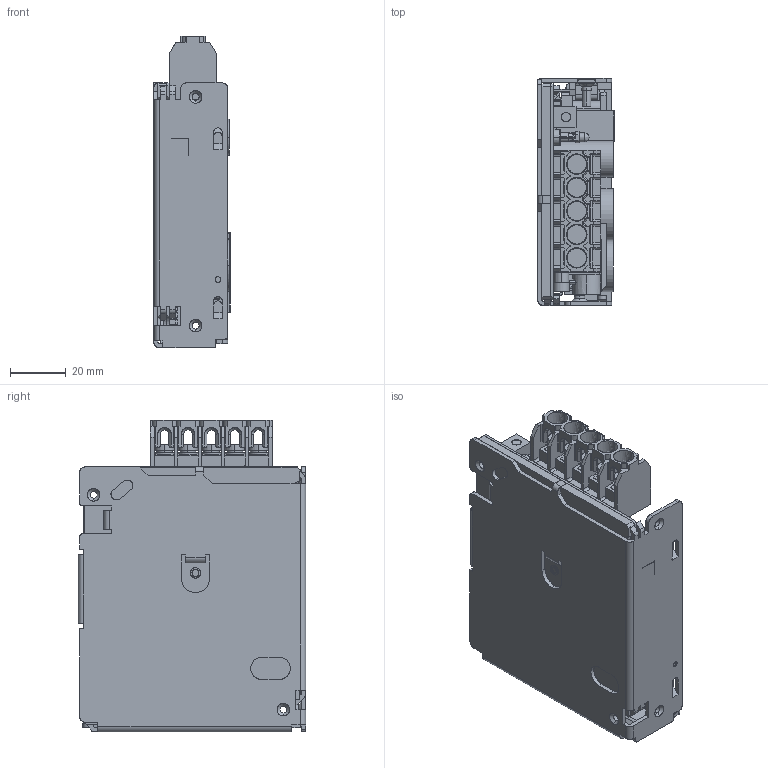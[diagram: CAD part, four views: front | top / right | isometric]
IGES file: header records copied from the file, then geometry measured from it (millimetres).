
Start section: SolidWorks IGES file using analytic representation for surfaces
Global section: file name: C:\hws30a_outline1.IGS; native system: SolidWorks 2013; preprocessor: SolidWorks 2013; author: a008167; date: 140725.154500; units: millimetre
Bounding box: 27.4 x 81.5 x 111.8 mm (x, y, z)
Surface area: 64306.4 mm2 (no closed solid volume)
Topology: 0 solids, 0 shells, 1809 faces, 18886 edges, 18870 vertices
Faces by surface type: bspline 1151, revolution 658
